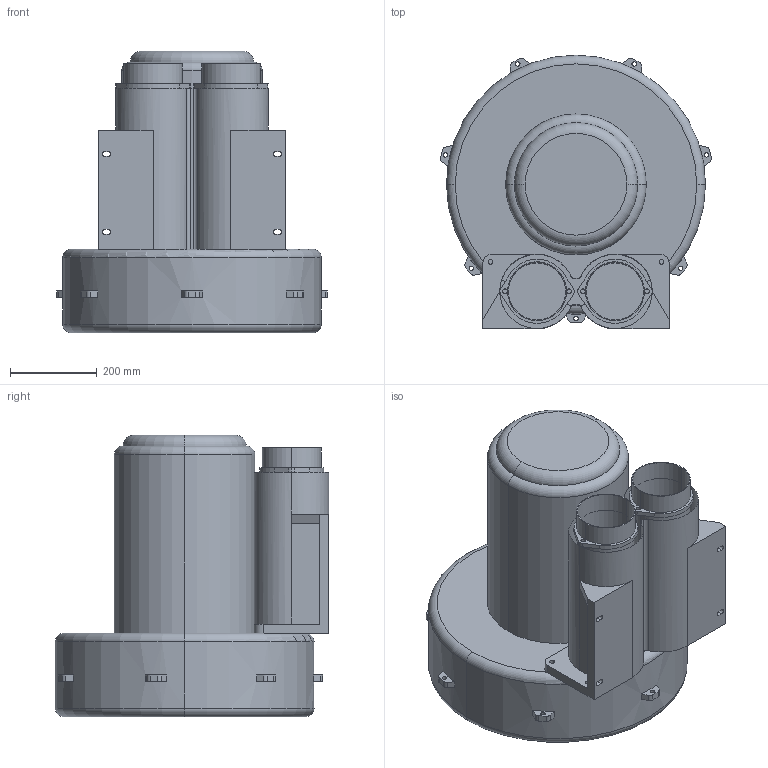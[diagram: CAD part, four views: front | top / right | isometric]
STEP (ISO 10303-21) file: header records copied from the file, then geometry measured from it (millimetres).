
FILE_DESCRIPTION (( 'STEP AP203' ), '1' );
FILE_NAME ('15000.STEP', '2019-05-09T03:43:17', ( 'User' ), ( 'www.dadighost.com' ), 'SwSTEP 2.0', 'SolidWorks 2014', '' );
FILE_SCHEMA (( 'CONFIG_CONTROL_DESIGN' ));
Length unit declared in the file: millimetre
Products named in the file (1): 15000
Bounding box: 625.36 x 632 x 650 mm (x, y, z)
Volume: 102526101.7 mm3; surface area: 2200180.8 mm2
Topology: 1 solids, 1 shells, 183 faces, 468 edges, 305 vertices
Faces by surface type: plane 90, cylinder 85, torus 8
Entity records: 5738 total; most frequent: DIRECTION 1051, CARTESIAN_POINT 957, ORIENTED_EDGE 936, EDGE_CURVE 468, AXIS2_PLACEMENT_3D 399, VERTEX_POINT 305, VECTOR 253, LINE 253
